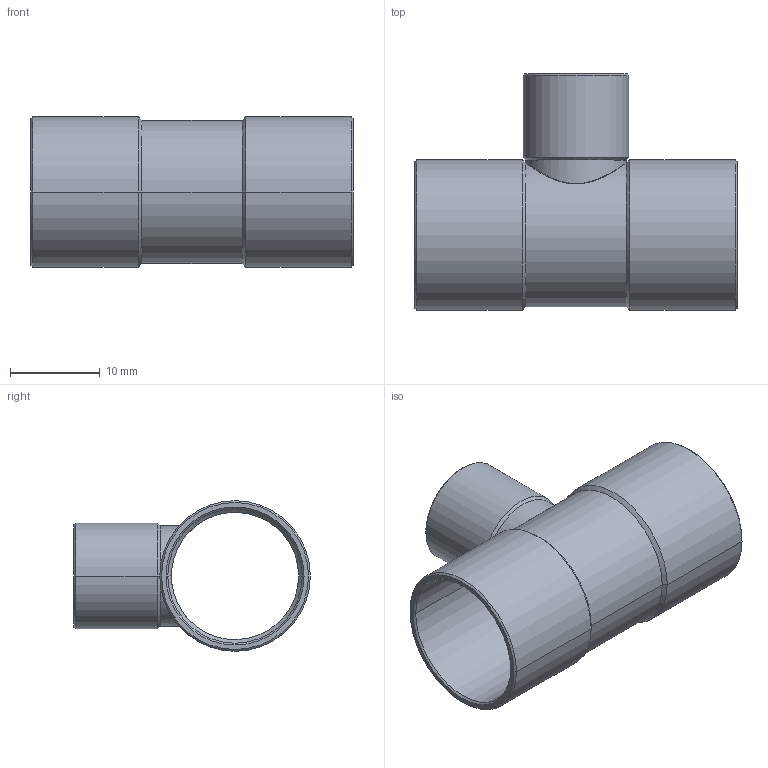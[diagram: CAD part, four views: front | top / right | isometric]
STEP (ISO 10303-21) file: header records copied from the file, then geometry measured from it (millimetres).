
FILE_DESCRIPTION((''),'2;1');
FILE_NAME('P:\Bouwmaten\z-maattekeningen 3D\5000\5130\5130151015.stp','2005-10-26T11:52:43',('Kris'),(''),'Autodesk Inventor 8','Autodesk Inventor 8','');
FILE_SCHEMA(('AUTOMOTIVE_DESIGN { 1 0 10303 214 1 1 1 1 }'));
Length unit declared in the file: millimetre
Products named in the file (1): 5130151015
Bounding box: 36 x 26.4 x 16.8 mm (x, y, z)
Volume: 1855.2 mm3; surface area: 4254.5 mm2
Topology: 1 solids, 1 shells, 49 faces, 112 edges, 64 vertices
Faces by surface type: cone 20, cylinder 16, bspline 10, plane 3
Entity records: 2026 total; most frequent: CARTESIAN_POINT 939, ORIENTED_EDGE 224, DIRECTION 220, EDGE_CURVE 112, AXIS2_PLACEMENT_3D 89, VERTEX_POINT 64, EDGE_LOOP 52, CIRCLE 49
